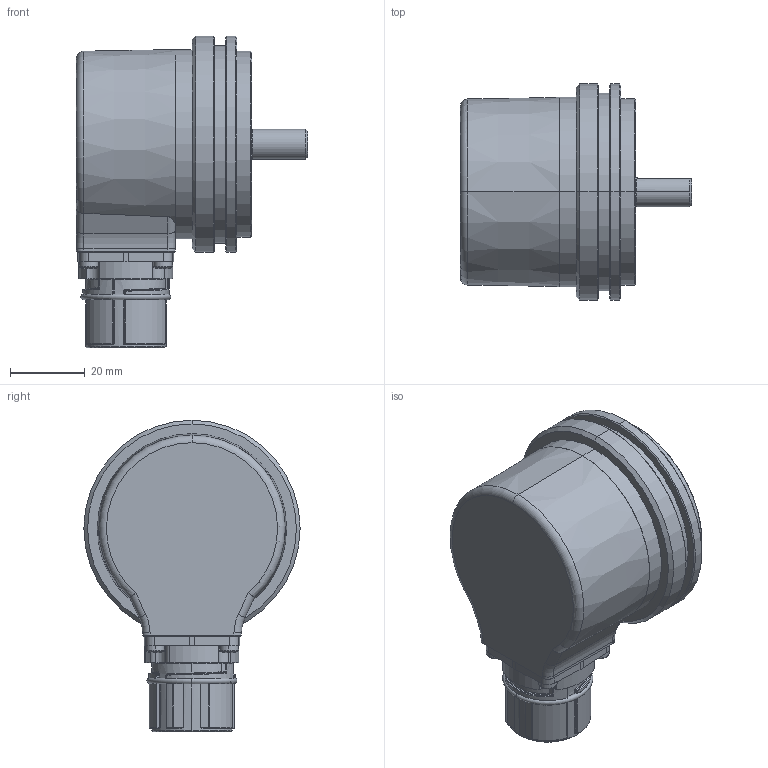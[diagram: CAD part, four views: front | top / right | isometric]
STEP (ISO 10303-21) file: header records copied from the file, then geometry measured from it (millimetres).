
FILE_DESCRIPTION (( 'STEP AP203' ), '1' );
FILE_NAME ('8.5000.A6X8.XXXX.STEP', '2017-04-05T07:45:51', ( '' ), ( '' ), 'SwSTEP 2.0', 'SolidWorks 2017', '' );
FILE_SCHEMA (( 'CONFIG_CONTROL_DESIGN' ));
Length unit declared in the file: millimetre
Products named in the file (1): 8.5000.A6X8.XXXX
Bounding box: 62 x 58 x 83.6 mm (x, y, z)
Volume: 70527.3 mm3; surface area: 43405.7 mm2
Topology: 25 solids, 25 shells, 1319 faces, 3110 edges, 1884 vertices
Faces by surface type: cylinder 481, plane 373, bspline 157, cone 156, torus 92, sphere 60
Entity records: 44804 total; most frequent: CARTESIAN_POINT 14972, DIRECTION 6391, ORIENTED_EDGE 6024, EDGE_CURVE 3012, AXIS2_PLACEMENT_3D 2585, VERTEX_POINT 1876, EDGE_LOOP 1522, CIRCLE 1422
